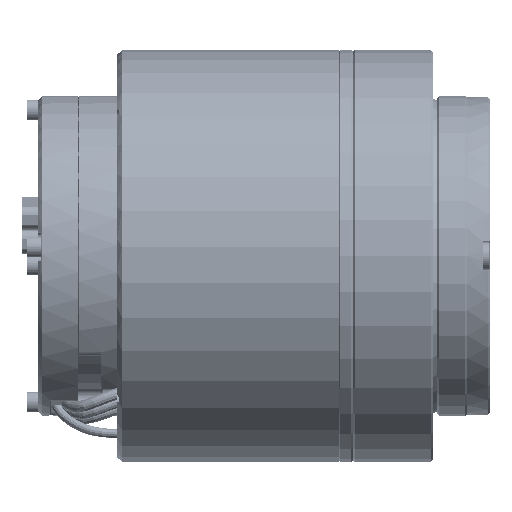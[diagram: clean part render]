
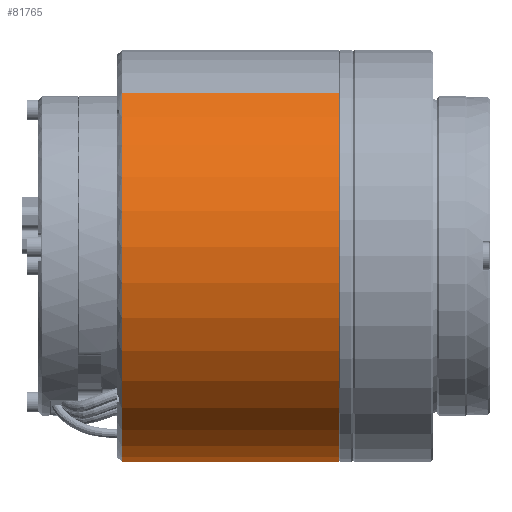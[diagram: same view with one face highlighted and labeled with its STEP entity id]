
A CAD part, front view. The second image highlights one B-rep face of the part: STEP entity #81765.
In plain terms, the highlighted cylindrical face has radius 45 mm (diameter 90 mm), a partial arc.
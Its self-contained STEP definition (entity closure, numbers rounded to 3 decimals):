
#2076 = DIRECTION ( 'NONE',  ( -1., 0., 0. ) ) ;
#22433 = VERTEX_POINT ( 'NONE', #150484 ) ;
#44767 = CIRCLE ( 'NONE', #340192, 45. ) ;
#51099 = FACE_OUTER_BOUND ( 'NONE', #228064, .T. ) ;
#54878 = VERTEX_POINT ( 'NONE', #270354 ) ;
#57108 = EDGE_CURVE ( 'NONE', #102348, #138817, #304390, .T. ) ;
#58085 = DIRECTION ( 'NONE',  ( -1., 0., 0. ) ) ;
#58188 = EDGE_CURVE ( 'NONE', #138817, #54878, #159461, .T. ) ;
#81765 = ADVANCED_FACE ( 'NONE', ( #51099 ), #288691, .T. ) ;
#102348 = VERTEX_POINT ( 'NONE', #238819 ) ;
#115387 = DIRECTION ( 'NONE',  ( 1., 0., 0. ) ) ;
#131558 = DIRECTION ( 'NONE',  ( 0., 0.609, -0.793 ) ) ;
#138817 = VERTEX_POINT ( 'NONE', #334056 ) ;
#150484 = CARTESIAN_POINT ( 'NONE',  ( -68., -27.394, 35.701 ) ) ;
#154713 = VECTOR ( 'NONE', #2076, 1000. ) ;
#157791 = CARTESIAN_POINT ( 'NONE',  ( -68., 0., 0. ) ) ;
#159461 = LINE ( 'NONE', #297409, #338264 ) ;
#160584 = ORIENTED_EDGE ( 'NONE', *, *, #58188, .F. ) ;
#161087 = CARTESIAN_POINT ( 'NONE',  ( -20.5, 0., 0. ) ) ;
#213720 = EDGE_CURVE ( 'NONE', #102348, #22433, #216915, .T. ) ;
#215211 = CARTESIAN_POINT ( 'NONE',  ( -20.5, -27.394, 35.701 ) ) ;
#216915 = LINE ( 'NONE', #215211, #154713 ) ;
#219469 = ORIENTED_EDGE ( 'NONE', *, *, #57108, .F. ) ;
#222004 = DIRECTION ( 'NONE',  ( 0., -0.609, 0.793 ) ) ;
#228064 = EDGE_LOOP ( 'NONE', ( #219469, #265359, #321547, #160584 ) ) ;
#238819 = CARTESIAN_POINT ( 'NONE',  ( -20.5, -27.394, 35.701 ) ) ;
#243345 = DIRECTION ( 'NONE',  ( 1., 0., 0. ) ) ;
#265359 = ORIENTED_EDGE ( 'NONE', *, *, #213720, .T. ) ;
#267670 = DIRECTION ( 'NONE',  ( -1., 0., 0. ) ) ;
#270354 = CARTESIAN_POINT ( 'NONE',  ( -68., 27.394, -35.701 ) ) ;
#288691 = CYLINDRICAL_SURFACE ( 'NONE', #313200, 45. ) ;
#290406 = DIRECTION ( 'NONE',  ( 0., 0.609, -0.793 ) ) ;
#297409 = CARTESIAN_POINT ( 'NONE',  ( -20.5, 27.394, -35.701 ) ) ;
#304078 = CARTESIAN_POINT ( 'NONE',  ( -20.5, 0., 0. ) ) ;
#304390 = CIRCLE ( 'NONE', #338025, 45. ) ;
#313200 = AXIS2_PLACEMENT_3D ( 'NONE', #161087, #267670, #290406 ) ;
#314997 = EDGE_CURVE ( 'NONE', #22433, #54878, #44767, .T. ) ;
#321547 = ORIENTED_EDGE ( 'NONE', *, *, #314997, .T. ) ;
#334056 = CARTESIAN_POINT ( 'NONE',  ( -20.5, 27.394, -35.701 ) ) ;
#338025 = AXIS2_PLACEMENT_3D ( 'NONE', #304078, #115387, #222004 ) ;
#338264 = VECTOR ( 'NONE', #58085, 1000. ) ;
#340192 = AXIS2_PLACEMENT_3D ( 'NONE', #157791, #243345, #131558 ) ;
